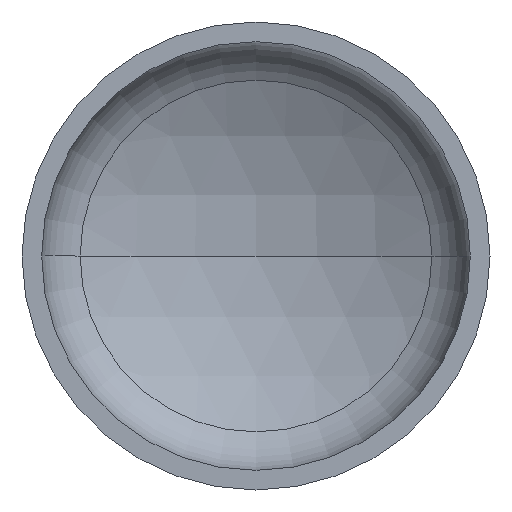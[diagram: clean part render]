
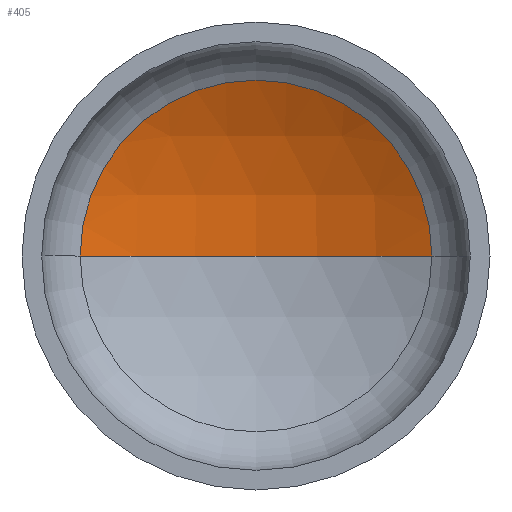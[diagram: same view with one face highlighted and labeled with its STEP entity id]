
A CAD part, front view. The second image highlights one B-rep face of the part: STEP entity #405.
In plain terms, the highlighted spherical face has radius 800 mm.
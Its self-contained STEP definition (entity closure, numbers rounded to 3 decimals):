
#1 = AXIS2_PLACEMENT_3D ( 'NONE', #295, #400, #248 ) ;
#2 = AXIS2_PLACEMENT_3D ( 'NONE', #403, #249, #65 ) ;
#5 = AXIS2_PLACEMENT_3D ( 'NONE', #243, #396, #194 ) ;
#10 = ORIENTED_EDGE ( 'NONE', *, *, #51, .T. ) ;
#43 = VERTEX_POINT ( 'NONE', #338 ) ;
#48 = EDGE_CURVE ( 'NONE', #86, #43, #151, .T. ) ;
#51 = EDGE_CURVE ( 'NONE', #83, #86, #341, .T. ) ;
#52 = EDGE_CURVE ( 'NONE', #83, #43, #410, .T. ) ;
#65 = DIRECTION ( 'NONE',  ( -1., 0., 0. ) ) ;
#83 = VERTEX_POINT ( 'NONE', #199 ) ;
#86 = VERTEX_POINT ( 'NONE', #153 ) ;
#118 = ORIENTED_EDGE ( 'NONE', *, *, #52, .F. ) ;
#123 = ORIENTED_EDGE ( 'NONE', *, *, #48, .T. ) ;
#131 = EDGE_LOOP ( 'NONE', ( #118, #10, #123 ) ) ;
#151 = CIRCLE ( 'NONE', #5, 375.814 ) ;
#153 = CARTESIAN_POINT ( 'NONE',  ( 375.814, 266.832, 0. ) ) ;
#158 = AXIS2_PLACEMENT_3D ( 'NONE', #229, #355, #292 ) ;
#194 = DIRECTION ( 'NONE',  ( 1., 0., 0. ) ) ;
#199 = CARTESIAN_POINT ( 'NONE',  ( 0., 360.6, 0. ) ) ;
#229 = CARTESIAN_POINT ( 'NONE',  ( 0., -439.4, 0. ) ) ;
#243 = CARTESIAN_POINT ( 'NONE',  ( 0., 266.832, 0. ) ) ;
#248 = DIRECTION ( 'NONE',  ( 1., 0., 0. ) ) ;
#249 = DIRECTION ( 'NONE',  ( 0., 0., -1. ) ) ;
#274 = SPHERICAL_SURFACE ( 'NONE', #158, 800. ) ;
#292 = DIRECTION ( 'NONE',  ( -1., 0., 0. ) ) ;
#295 = CARTESIAN_POINT ( 'NONE',  ( 0., -439.4, 0. ) ) ;
#338 = CARTESIAN_POINT ( 'NONE',  ( -375.814, 266.832, 0. ) ) ;
#341 = CIRCLE ( 'NONE', #2, 800. ) ;
#355 = DIRECTION ( 'NONE',  ( 0., 0., -1. ) ) ;
#396 = DIRECTION ( 'NONE',  ( 0., -1., 0. ) ) ;
#400 = DIRECTION ( 'NONE',  ( 0., 0., 1. ) ) ;
#403 = CARTESIAN_POINT ( 'NONE',  ( 0., -439.4, 0. ) ) ;
#405 = ADVANCED_FACE ( 'NONE', ( #406 ), #274, .F. ) ;
#406 = FACE_OUTER_BOUND ( 'NONE', #131, .T. ) ;
#410 = CIRCLE ( 'NONE', #1, 800. ) ;
